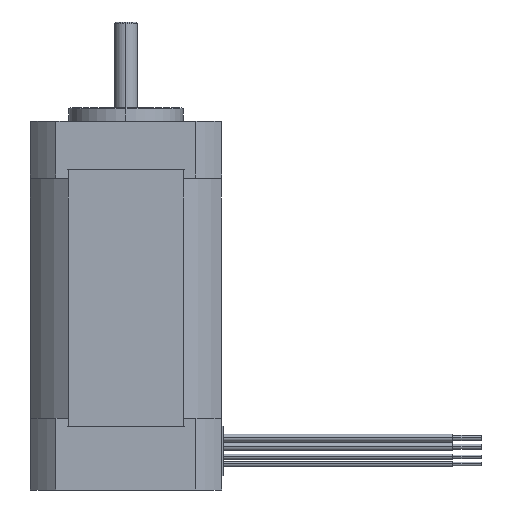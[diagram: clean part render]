
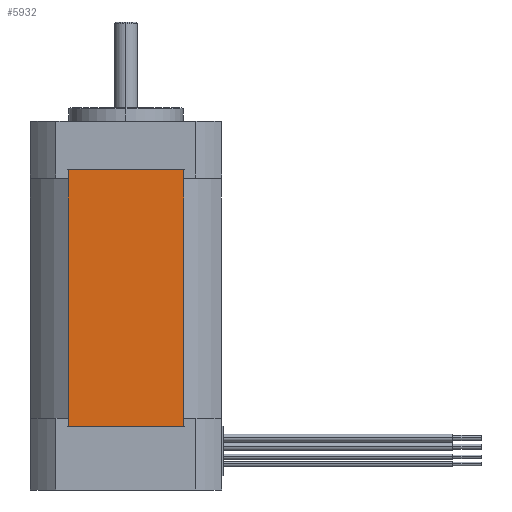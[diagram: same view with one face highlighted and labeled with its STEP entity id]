
A CAD part, left-side view. The second image highlights one B-rep face of the part: STEP entity #5932.
In plain terms, the highlighted planar face has unit normal (-1, 0, 0).
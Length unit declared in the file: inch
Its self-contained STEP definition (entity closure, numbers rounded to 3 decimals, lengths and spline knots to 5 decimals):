
#1637 = AXIS2_PLACEMENT_3D ( 'NONE', #4091, #4092, #4093 ) ;
#1776 = LINE ( 'NONE', #1782, #6935 ) ;
#1782 = CARTESIAN_POINT ( 'NONE',  ( -0.826, 0.49895, -2.639 ) ) ;
#1784 = DIRECTION ( 'NONE',  ( 0., 0., 1. ) ) ;
#2345 = CARTESIAN_POINT ( 'NONE',  ( -0.826, 0.49895, -0.42 ) ) ;
#2361 = CARTESIAN_POINT ( 'NONE',  ( -0.826, -0.49895, -0.42 ) ) ;
#2367 = CARTESIAN_POINT ( 'NONE',  ( -0.826, -0.49895, -2.639 ) ) ;
#3275 = EDGE_LOOP ( 'NONE', ( #8449, #8450, #8451, #8452 ) ) ;
#3476 = VERTEX_POINT ( 'NONE', #6656 ) ;
#4078 = FACE_OUTER_BOUND ( 'NONE', #3275, .T. ) ;
#4079 = PLANE ( 'NONE',  #1637 ) ;
#4091 = CARTESIAN_POINT ( 'NONE',  ( -0.826, -0.49895, -2.639 ) ) ;
#4092 = DIRECTION ( 'NONE',  ( 1., 0., 0. ) ) ;
#4093 = DIRECTION ( 'NONE',  ( 0., 1., 0. ) ) ;
#4380 = LINE ( 'NONE', #4388, #6863 ) ;
#4388 = CARTESIAN_POINT ( 'NONE',  ( -0.826, -0.49895, -0.42 ) ) ;
#4390 = DIRECTION ( 'NONE',  ( 0., 1., 0. ) ) ;
#4494 = LINE ( 'NONE', #4495, #6917 ) ;
#4495 = CARTESIAN_POINT ( 'NONE',  ( -0.826, -0.49895, -2.639 ) ) ;
#4496 = DIRECTION ( 'NONE',  ( 0., 0., 1. ) ) ;
#4668 = CARTESIAN_POINT ( 'NONE',  ( -0.826, -0.49895, -2.639 ) ) ;
#4671 = LINE ( 'NONE', #4668, #5703 ) ;
#4675 = DIRECTION ( 'NONE',  ( 0., 1., 0. ) ) ;
#5703 = VECTOR ( 'NONE', #4675, 39.37008 ) ;
#5785 = EDGE_CURVE ( 'NONE', #8215, #3476, #4671, .T. ) ;
#5932 = ADVANCED_FACE ( 'NONE', ( #4078 ), #4079, .F. ) ;
#5966 = EDGE_CURVE ( 'NONE', #8209, #8193, #4380, .T. ) ;
#6001 = EDGE_CURVE ( 'NONE', #8215, #8209, #4494, .T. ) ;
#6017 = EDGE_CURVE ( 'NONE', #3476, #8193, #1776, .T. ) ;
#6656 = CARTESIAN_POINT ( 'NONE',  ( -0.826, 0.49895, -2.639 ) ) ;
#6863 = VECTOR ( 'NONE', #4390, 39.37008 ) ;
#6917 = VECTOR ( 'NONE', #4496, 39.37008 ) ;
#6935 = VECTOR ( 'NONE', #1784, 39.37008 ) ;
#8193 = VERTEX_POINT ( 'NONE', #2345 ) ;
#8209 = VERTEX_POINT ( 'NONE', #2361 ) ;
#8215 = VERTEX_POINT ( 'NONE', #2367 ) ;
#8449 = ORIENTED_EDGE ( 'NONE', *, *, #5966, .T. ) ;
#8450 = ORIENTED_EDGE ( 'NONE', *, *, #6017, .F. ) ;
#8451 = ORIENTED_EDGE ( 'NONE', *, *, #5785, .F. ) ;
#8452 = ORIENTED_EDGE ( 'NONE', *, *, #6001, .T. ) ;
